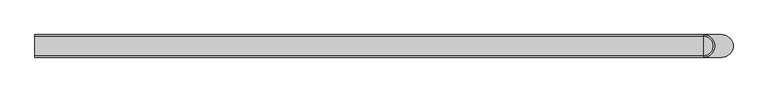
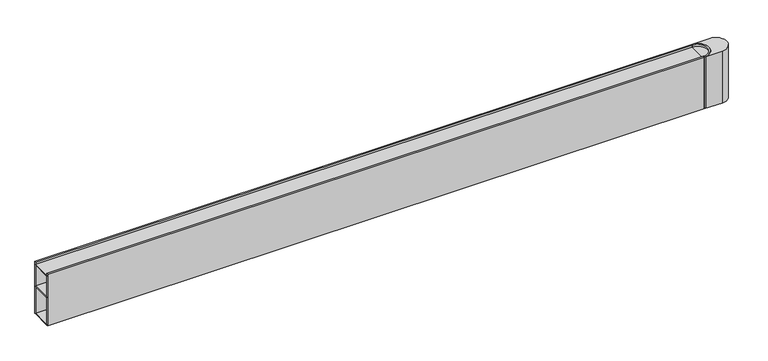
"""IFC4 building model written with IfcOpenShell, lengths in millimetres: light fixture geometry, Lighting-Recessed-Betacalco-Block-Straight : BLKR-DT1-PW01-TR01-SL04-EP01-LP020-CR80-CTA40."""

from ifc_helpers import new_model, si_unit, point, frame, frame_2d, origin, place, context, project, spatial, polyline, circle_curve, trimmed, segment, composite_curve, outline, extrude, source, transform, mapped, element, save
from ifc_brep_helpers import plane_surface, cylinder_surface, revolved_surface, advanced_brep


def light_fixture_76fa485d(model_context):
    return source(origin(), model_context, "Body", "SolidModel", [
        extrude(outline(composite_curve([segment(polyline([(609.6, -20.6375), (609.6, -18.0975)]), True, "CONTINUOUS"), segment(trimmed(circle_curve(frame_2d((609.6, 0.0)), 18.0975), [point((609.6, -18.0975))], [point((609.6, 18.0975))], True, "CARTESIAN"), True, "CONTINUOUS"), segment(polyline([(609.6, 18.0975), (609.6, 20.6375)]), True, "CONTINUOUS"), segment(trimmed(circle_curve(frame_2d((609.6, 0.0)), 20.6375), [point((609.6, 20.6375))], [point((609.6, -20.6375))], False, "CARTESIAN"), True, "CONTINUOUS")], self_intersect=False)), frame((0.0, 0.0, -100.0125), z_axis=(0.0, 0.0, 1.0), x_axis=(1.0, 0.0, 0.0)), (0.0, 0.0, 1.0), 100.0125),
        extrude(outline(composite_curve([segment(polyline([(609.6, -18.0975), (609.6, 18.0975)]), True, "CONTINUOUS"), segment(trimmed(circle_curve(frame_2d((609.6, 0.0)), 18.0975), [point((609.6, 18.0975))], [point((609.6, -18.0975))], False, "CARTESIAN"), True, "CONTINUOUS")], self_intersect=False)), frame((0.0, 0.0, -5.2904412), z_axis=(0.0, 0.0, 1.0), x_axis=(1.0, 0.0, 0.0)), (0.0, 0.0, 1.0), 1.5875),
        advanced_brep(
        [(609.6, 20.6375, -100.0125), (609.6, -20.6375, -100.0125), (609.6, -20.6375, -101.6), (609.6, 20.6375, -101.6), (642.9375, 20.6375, -101.6), (642.9375, -20.6375, -101.6), (609.6, 20.6375, 0.0), (609.6, -20.6375, 0.0), (642.9375, -20.6375, 0.0), (642.9375, 20.6375, 0.0)],
        [
            (0, 1),
            (1, 0, circle_curve(frame((609.6, 0.0, -100.0125), z_axis=(0.0, 0.0, 1.0), x_axis=(1.0, 0.0, 0.0)), 20.6375)),
            (2, 3),
            (3, 4),
            (4, 5, circle_curve(frame((642.9375, 0.0, -101.6), z_axis=(0.0, 0.0, -1.0), x_axis=(1.0, 0.0, 0.0)), 20.6375)),
            (5, 2),
            (0, 3),
            (2, 1),
            (6, 7, circle_curve(frame((609.6, 0.0, 0.0), z_axis=(0.0, 0.0, -1.0), x_axis=(1.0, 0.0, 0.0)), 20.6375)),
            (7, 8),
            (8, 9, circle_curve(frame((642.9375, 0.0, 0.0), z_axis=(0.0, 0.0, 1.0), x_axis=(1.0, 0.0, 0.0)), 20.6375)),
            (9, 6),
            (6, 0),
            (1, 7),
            (5, 8),
            (4, 9),
        ],
        [
            plane_surface(frame((630.2375, 0.0, -100.0125), z_axis=(0.0, 0.0, 1.0), x_axis=(0.0, 1.0, 0.0))),
            plane_surface(frame((630.2375, 0.0, -101.6), z_axis=(0.0, 0.0, -1.0), x_axis=(0.0, -1.0, 0.0))),
            plane_surface(frame((609.6, 20.6375, -100.0125), z_axis=(-1.0, 0.0, 0.0), x_axis=(0.0, 0.0, -1.0))),
            plane_surface(frame((630.2375, 0.0, 0.0), z_axis=(0.0, 0.0, 1.0), x_axis=(0.0, -1.0, 0.0))),
            revolved_surface(polyline([(630.2375000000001, 0.0, -100.0125), (630.2375000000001, 0.0, 0.0)]), (609.6, 0.0, -101.6), (0.0, 0.0, -1.0)),
            plane_surface(frame((609.6, -20.6375, 0.0), z_axis=(0.0, -1.0, 0.0), x_axis=(0.0, 0.0, -1.0))),
            cylinder_surface(frame((642.9375, 0.0, -101.6), z_axis=(0.0, 0.0, 1.0), x_axis=(1.0, 0.0, 0.0)), 20.6375),
            plane_surface(frame((642.9375, 20.6375, 0.0), z_axis=(0.0, 1.0, 0.0), x_axis=(0.0, 0.0, -1.0))),
        ],
        [
            (0, [[1, 2]]),
            (1, [[3, 4, 5, 6]]),
            (2, [[-1, 7, -3, 8]]),
            (3, [[9, 10, 11, 12]]),
            (4, [[-9, 13, -2, 14]]),
            (5, [[-10, -14, -8, -6, 15]]),
            (6, [[-11, -15, -5, 16]]),
            (7, [[-12, -16, -4, -7, -13]]),
        ],
    ),
        extrude(outline(polyline([(609.6, 18.0975), (609.6, -18.0975), (-609.6, -18.0975), (-609.6, 18.0975), (609.6, 18.0975)])), frame((0.0, 0.0, -5.2904412), z_axis=(0.0, 0.0, 1.0), x_axis=(1.0, 0.0, 0.0)), (0.0, 0.0, 1.0), 1.5875),
        extrude(outline(polyline([(609.6, 18.0975), (609.6, -18.0975), (-609.6, -18.0975), (-609.6, 18.0975), (609.6, 18.0975)])), frame((0.0, 0.0, -47.912087), z_axis=(0.0, 0.0, 1.0), x_axis=(1.0, 0.0, 0.0)), (0.0, 0.0, 1.0), 1.5875),
        extrude(outline(polyline([(609.6, 18.0975), (609.6, -18.0975), (-609.6, -18.0975), (-609.6, 18.0975), (609.6, 18.0975)])), frame((0.0, 0.0, -101.6), z_axis=(0.0, 0.0, 1.0), x_axis=(1.0, 0.0, 0.0)), (0.0, 0.0, 1.0), 1.5875),
        extrude(outline(polyline([(609.6, 20.6375), (609.6, 18.0975), (-609.6, 18.0975), (-609.6, 20.6375), (609.6, 20.6375)])), frame((0.0, 0.0, -101.6), z_axis=(0.0, 0.0, 1.0), x_axis=(1.0, 0.0, 0.0)), (0.0, 0.0, 1.0), 101.6),
        extrude(outline(polyline([(609.6, -18.0975), (609.6, -20.6375), (-609.6, -20.6375), (-609.6, -18.0975), (609.6, -18.0975)])), frame((0.0, 0.0, -101.6), z_axis=(0.0, 0.0, 1.0), x_axis=(1.0, 0.0, 0.0)), (0.0, 0.0, 1.0), 101.6),
    ])


if __name__ == "__main__":
    model = new_model("IFC4")
    model_context = context("Model", 3, world=origin())
    ifc_project = project(units=[si_unit("LENGTHUNIT", "METRE", prefix="MILLI")], contexts=[model_context])
    site = spatial("IfcSite", under=ifc_project)
    building = spatial("IfcBuilding", under=site)
    placement = place(None, origin())
    light_fixture_shape = light_fixture_76fa485d(model_context)
    element("IfcLightFixture", 1, ObjectType="Lighting-Recessed-Betacalco-Block-Straight : BLKR-DT1-PW01-TR01-SL04-EP01-LP020-CR80-CTA40", at=placement, inside=building, context=model_context, shape_type="MappedRepresentation", body=[
        mapped(light_fixture_shape, transform((0.0, 0.0, 0.0), x_axis=(1.0, 0.0, 0.0), y_axis=(0.0, 1.0, 0.0), z_axis=(0.0, 0.0, 1.0))),
    ])
    save(model, "model.ifc")
